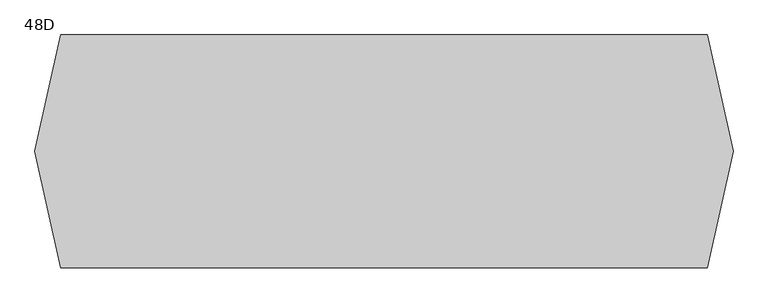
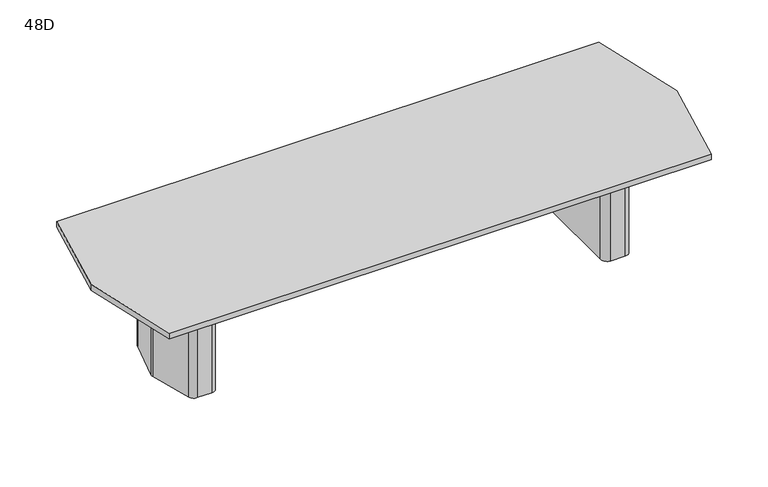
"""IFC4 building model written with IfcOpenShell, lengths in millimetres: furniture geometry, Coalesse_AM_Table_Conference_ETable2_Faceted_12ft_TwoBase : 48D."""

from ifc_helpers import new_model, si_unit, frame, origin, place, context, project, spatial, polyline, circle_curve, outline, extrude, source, transform, mapped, element, save
from ifc_brep_helpers import plane_surface, cylinder_surface, revolved_surface, advanced_brep


def furniture_48d_4c6bb4a2(model_context):
    return source(origin(), model_context, "Body", "SolidModel", [
        advanced_brep(
        [(1370.224548, 274.2093613, 698.5), (1330.3579246, 304.8, 698.5), (1241.425, 304.8, 698.5), (1200.15, 263.525, 698.5), (1200.15, -263.525, 698.5), (1241.425, -304.8, 698.5), (1330.3579246, -304.8, 698.5), (1370.224548, -274.2093613, 698.5), (1440.8503901, -10.6333708, 698.5), (1440.8503901, 10.6333708, 698.5), (1238.25, -206.375, 698.5), (1238.25, 206.375, 698.5), (1263.65, 231.775, 698.5), (1322.6608422, 231.775, 698.5), (1347.195338, 212.9490792, 698.5), (1385.8875, 68.54974, 698.5), (1385.8875, -68.54974, 698.5), (1347.195338, -212.9490792, 698.5), (1322.6608422, -231.775, 698.5), (1263.65, -231.775, 698.5), (1370.224548, 274.2093613, 3.175), (1440.8503901, 10.6333708, 3.175), (1440.8503901, -10.6333708, 3.175), (1370.224548, -274.2093613, 3.175), (1330.3579246, -304.8, 3.175), (1241.425, -304.8, 3.175), (1200.15, -263.525, 3.175), (1200.15, 263.525, 3.175), (1241.425, 304.8, 3.175), (1330.3579246, 304.8, 3.175), (1359.4625859, 216.2361187, 3.175), (1322.6608422, 244.475, 3.175), (1263.65, 244.475, 3.175), (1225.55, 206.375, 3.175), (1225.55, -206.375, 3.175), (1263.65, -244.475, 3.175), (1322.6608422, -244.475, 3.175), (1359.4625859, -216.2361187, 3.175), (1398.5875, -70.2217466, 3.175), (1398.5875, 70.2217466, 3.175), (1263.65, -231.775, 3.175), (1238.25, -206.375, 3.175), (1322.6608422, -231.775, 3.175), (1347.195338, -212.9490792, 3.175), (1385.8875, -68.54974, 3.175), (1385.8875, 68.54974, 3.175), (1347.195338, 212.9490792, 3.175), (1322.6608422, 231.775, 3.175), (1263.65, 231.775, 3.175), (1238.25, 206.375, 3.175), (1359.4625859, 216.2361187, 0.0), (1398.5875, 70.2217466, 0.0), (1398.5875, -70.2217466, 0.0), (1359.4625859, -216.2361187, 0.0), (1322.6608422, -244.475, 0.0), (1263.65, -244.475, 0.0), (1225.55, -206.375, 0.0), (1225.55, 206.375, 0.0), (1263.65, 244.475, 0.0), (1322.6608422, 244.475, 0.0)],
        [
            (0, 1, circle_curve(frame((1330.3579246, 263.5270004, 698.5), z_axis=(0.0, 0.0, 1.0), x_axis=(-1.0, 0.0, 0.0)), 41.2729996)),
            (1, 2),
            (2, 3, circle_curve(frame((1241.425, 263.525, 698.5), z_axis=(0.0, 0.0, 1.0), x_axis=(-1.0, 0.0, 0.0)), 41.275)),
            (3, 4),
            (4, 5, circle_curve(frame((1241.425, -263.525, 698.5), z_axis=(0.0, 0.0, 1.0), x_axis=(-1.0, 0.0, 0.0)), 41.275)),
            (5, 6),
            (6, 7, circle_curve(frame((1330.3579246, -263.5270004, 698.5), z_axis=(0.0, 0.0, 1.0), x_axis=(-1.0, 0.0, 0.0)), 41.2729996)),
            (7, 8),
            (8, 9, circle_curve(frame((1401.1665979, 0.0, 698.5), z_axis=(0.0, 0.0, 1.0), x_axis=(-1.0, 0.0, 0.0)), 41.0837187)),
            (9, 0),
            (10, 11),
            (11, 12, circle_curve(frame((1263.65, 206.375, 698.5), z_axis=(0.0, 0.0, -1.0), x_axis=(-1.0, 0.0, 0.0)), 25.4)),
            (12, 13),
            (13, 14, circle_curve(frame((1322.6608422, 206.375, 698.5), z_axis=(0.0, 0.0, -1.0), x_axis=(-1.0, 0.0, 0.0)), 25.4)),
            (14, 15),
            (15, 16),
            (16, 17),
            (17, 18, circle_curve(frame((1322.6608422, -206.375, 698.5), z_axis=(0.0, 0.0, -1.0), x_axis=(-1.0, 0.0, 0.0)), 25.4)),
            (18, 19),
            (19, 10, circle_curve(frame((1263.65, -206.375, 698.5), z_axis=(0.0, 0.0, -1.0), x_axis=(-1.0, 0.0, 0.0)), 25.4)),
            (20, 21),
            (21, 22, circle_curve(frame((1401.1665979, 0.0, 3.175), z_axis=(0.0, 0.0, -1.0), x_axis=(-1.0, 0.0, 0.0)), 41.0837187)),
            (22, 23),
            (23, 24, circle_curve(frame((1330.3579246, -263.5270004, 3.175), z_axis=(0.0, 0.0, -1.0), x_axis=(-1.0, 0.0, 0.0)), 41.2729996)),
            (24, 25),
            (25, 26, circle_curve(frame((1241.425, -263.525, 3.175), z_axis=(0.0, 0.0, -1.0), x_axis=(-1.0, 0.0, 0.0)), 41.275)),
            (26, 27),
            (27, 28, circle_curve(frame((1241.425, 263.525, 3.175), z_axis=(0.0, 0.0, -1.0), x_axis=(-1.0, 0.0, 0.0)), 41.275)),
            (28, 29),
            (29, 20, circle_curve(frame((1330.3579246, 263.5270004, 3.175), z_axis=(0.0, 0.0, -1.0), x_axis=(-1.0, 0.0, 0.0)), 41.2729996)),
            (30, 31, circle_curve(frame((1322.6608422, 206.375, 3.175), z_axis=(0.0, 0.0, 1.0), x_axis=(-1.0, 0.0, 0.0)), 38.1)),
            (31, 32),
            (32, 33, circle_curve(frame((1263.65, 206.375, 3.175), z_axis=(0.0, 0.0, 1.0), x_axis=(-1.0, 0.0, 0.0)), 38.1)),
            (33, 34),
            (34, 35, circle_curve(frame((1263.65, -206.375, 3.175), z_axis=(0.0, 0.0, 1.0), x_axis=(-1.0, 0.0, 0.0)), 38.1)),
            (35, 36),
            (36, 37, circle_curve(frame((1322.6608422, -206.375, 3.175), z_axis=(0.0, 0.0, 1.0), x_axis=(-1.0, 0.0, 0.0)), 38.1)),
            (37, 38),
            (38, 39),
            (39, 30),
            (9, 21),
            (20, 0),
            (8, 22),
            (7, 23),
            (6, 24),
            (5, 25),
            (4, 26),
            (3, 27),
            (2, 28),
            (1, 29),
            (19, 40),
            (40, 41, circle_curve(frame((1263.65, -206.375, 3.175), z_axis=(0.0, 0.0, -1.0), x_axis=(-1.0, 0.0, 0.0)), 25.4)),
            (41, 10),
            (18, 42),
            (42, 40),
            (17, 43),
            (43, 42, circle_curve(frame((1322.6608422, -206.375, 3.175), z_axis=(0.0, 0.0, -1.0), x_axis=(-1.0, 0.0, 0.0)), 25.4)),
            (16, 44),
            (44, 43),
            (15, 45),
            (45, 44),
            (14, 46),
            (46, 45),
            (13, 47),
            (47, 46, circle_curve(frame((1322.6608422, 206.375, 3.175), z_axis=(0.0, 0.0, -1.0), x_axis=(-1.0, 0.0, 0.0)), 25.4)),
            (12, 48),
            (48, 47),
            (11, 49),
            (49, 48, circle_curve(frame((1263.65, 206.375, 3.175), z_axis=(0.0, 0.0, -1.0), x_axis=(-1.0, 0.0, 0.0)), 25.4)),
            (41, 49),
            (50, 51),
            (51, 52),
            (52, 53),
            (53, 54, circle_curve(frame((1322.6608422, -206.375, 0.0), z_axis=(0.0, 0.0, -1.0), x_axis=(-1.0, 0.0, 0.0)), 38.1)),
            (54, 55),
            (55, 56, circle_curve(frame((1263.65, -206.375, 0.0), z_axis=(0.0, 0.0, -1.0), x_axis=(-1.0, 0.0, 0.0)), 38.1)),
            (56, 57),
            (57, 58, circle_curve(frame((1263.65, 206.375, 0.0), z_axis=(0.0, 0.0, -1.0), x_axis=(-1.0, 0.0, 0.0)), 38.1)),
            (58, 59),
            (59, 50, circle_curve(frame((1322.6608422, 206.375, 0.0), z_axis=(0.0, 0.0, -1.0), x_axis=(-1.0, 0.0, 0.0)), 38.1)),
            (50, 30),
            (39, 51),
            (38, 52),
            (37, 53),
            (36, 54),
            (35, 55),
            (34, 56),
            (33, 57),
            (32, 58),
            (31, 59),
        ],
        [
            plane_surface(frame((1440.8374275, 10.6817473, 698.5), z_axis=(0.0, 0.0, 1.0000000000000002), x_axis=(0.25882201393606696, -0.9659250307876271, 0.0))),
            plane_surface(frame((1440.8374275, 10.6817473, 3.175), z_axis=(0.0, 0.0, -1.0000000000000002), x_axis=(-0.25882201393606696, 0.9659250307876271, 0.0))),
            plane_surface(frame((1370.224548, 274.2093613, 698.5), z_axis=(0.9659250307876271, 0.25882201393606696, 0.0), x_axis=(0.0, 0.0, -1.0))),
            cylinder_surface(frame((1401.1665979, 0.0, 3.175), z_axis=(0.0, 0.0, 1.0), x_axis=(-1.0, 0.0, 0.0)), 41.0837187),
            plane_surface(frame((1440.8503901, -10.6333708, 698.5), z_axis=(0.9659250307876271, -0.2588220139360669, 0.0), x_axis=(0.0, 0.0, -1.0))),
            cylinder_surface(frame((1330.3579246, -263.5270004, 3.175), z_axis=(0.0, 0.0, 1.0), x_axis=(-1.0, 0.0, 0.0)), 41.2729996),
            plane_surface(frame((1330.3579246, -304.8, 698.5), z_axis=(0.0, -1.0, 0.0), x_axis=(0.0, 0.0, -1.0))),
            cylinder_surface(frame((1241.425, -263.525, 3.175), z_axis=(0.0, 0.0, 1.0), x_axis=(-1.0, 0.0, 0.0)), 41.275),
            plane_surface(frame((1200.15, -263.525, 698.5), z_axis=(-1.0, 0.0, 0.0), x_axis=(0.0, 0.0, -1.0))),
            cylinder_surface(frame((1241.425, 263.525, 3.175), z_axis=(0.0, 0.0, 1.0), x_axis=(-1.0, 0.0, 0.0)), 41.275),
            plane_surface(frame((1241.425, 304.8, 698.5), z_axis=(0.0, 1.0, 0.0), x_axis=(0.0, 0.0, -1.0))),
            cylinder_surface(frame((1330.3579246, 263.5270004, 3.175), z_axis=(0.0, 0.0, 1.0), x_axis=(-1.0, 0.0, 0.0)), 41.2729996),
            revolved_surface(polyline([(1238.25, -206.375, 3.175), (1238.25, -206.375, 698.5)]), (1263.65, -206.375, 0.0), (0.0, 0.0, -1.0)),
            plane_surface(frame((1263.65, -231.775, 698.5), z_axis=(0.0, 1.0, 0.0), x_axis=(0.0, 0.0, -1.0))),
            revolved_surface(polyline([(1297.2608421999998, -206.375, 3.175), (1297.2608421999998, -206.375, 698.5)]), (1322.6608422, -206.375, 0.0), (0.0, 0.0, -1.0)),
            plane_surface(frame((1347.195338, -212.9490792, 698.5), z_axis=(-0.9659250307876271, 0.2588220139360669, 0.0), x_axis=(0.0, 0.0, -1.0))),
            plane_surface(frame((1385.8875, -68.54974, 698.5), z_axis=(-1.0, 0.0, 0.0), x_axis=(0.0, 0.0, -1.0))),
            plane_surface(frame((1385.8875, 68.54974, 698.5), z_axis=(-0.9659250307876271, -0.25882201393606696, 0.0), x_axis=(0.0, 0.0, -1.0))),
            revolved_surface(polyline([(1297.2608421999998, 206.375, 3.175), (1297.2608421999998, 206.375, 698.5)]), (1322.6608422, 206.375, 0.0), (0.0, 0.0, -1.0)),
            plane_surface(frame((1322.6608422, 231.775, 698.5), z_axis=(0.0, -1.0, 0.0), x_axis=(0.0, 0.0, -1.0))),
            revolved_surface(polyline([(1238.25, 206.375, 3.175), (1238.25, 206.375, 698.5)]), (1263.65, 206.375, 0.0), (0.0, 0.0, -1.0)),
            plane_surface(frame((1238.25, 206.375, 698.5), z_axis=(1.0, 0.0, 0.0), x_axis=(0.0, 0.0, -1.0))),
            plane_surface(frame((1398.1547479, 71.8367796, 3.175), z_axis=(0.0, 0.0, 1.0), x_axis=(0.25882201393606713, -0.965925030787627, 0.0))),
            plane_surface(frame((1398.1547479, 71.8367796, 0.0), z_axis=(0.0, 0.0, -1.0), x_axis=(-0.25882201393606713, 0.965925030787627, 0.0))),
            plane_surface(frame((1359.4625859, 216.2361187, 3.175), z_axis=(0.965925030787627, 0.25882201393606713, 0.0), x_axis=(0.0, 0.0, -1.0))),
            plane_surface(frame((1398.5875, 70.2217466, 3.175), z_axis=(1.0, 0.0, 0.0), x_axis=(0.0, 0.0, -1.0))),
            plane_surface(frame((1398.5875, -70.2217466, 3.175), z_axis=(0.9659250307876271, -0.2588220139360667, 0.0), x_axis=(0.0, 0.0, -1.0))),
            cylinder_surface(frame((1322.6608422, -206.375, 0.0), z_axis=(0.0, 0.0, 1.0), x_axis=(-1.0, 0.0, 0.0)), 38.1),
            plane_surface(frame((1322.6608422, -244.475, 3.175), z_axis=(0.0, -1.0, 0.0), x_axis=(0.0, 0.0, -1.0))),
            cylinder_surface(frame((1263.65, -206.375, 0.0), z_axis=(0.0, 0.0, 1.0), x_axis=(-1.0, 0.0, 0.0)), 38.1),
            plane_surface(frame((1225.55, -206.375, 3.175), z_axis=(-1.0, 0.0, 0.0), x_axis=(0.0, 0.0, -1.0))),
            cylinder_surface(frame((1263.65, 206.375, 0.0), z_axis=(0.0, 0.0, 1.0), x_axis=(-1.0, 0.0, 0.0)), 38.1),
            plane_surface(frame((1263.65, 244.475, 3.175), z_axis=(0.0, 1.0, 0.0), x_axis=(0.0, 0.0, -1.0))),
            cylinder_surface(frame((1322.6608422, 206.375, 0.0), z_axis=(0.0, 0.0, 1.0), x_axis=(-1.0, 0.0, 0.0)), 38.1),
        ],
        [
            (0, [[1, 2, 3, 4, 5, 6, 7, 8, 9, 10], [11, 12, 13, 14, 15, 16, 17, 18, 19, 20]]),
            (1, [[21, 22, 23, 24, 25, 26, 27, 28, 29, 30], [31, 32, 33, 34, 35, 36, 37, 38, 39, 40]]),
            (2, [[41, -21, 42, -10]]),
            (3, [[43, -22, -41, -9]]),
            (4, [[44, -23, -43, -8]]),
            (5, [[45, -24, -44, -7]]),
            (6, [[46, -25, -45, -6]]),
            (7, [[47, -26, -46, -5]]),
            (8, [[48, -27, -47, -4]]),
            (9, [[49, -28, -48, -3]]),
            (10, [[50, -29, -49, -2]]),
            (11, [[-42, -30, -50, -1]]),
            (12, [[51, 52, 53, -20]]),
            (13, [[54, 55, -51, -19]]),
            (14, [[56, 57, -54, -18]]),
            (15, [[58, 59, -56, -17]]),
            (16, [[60, 61, -58, -16]]),
            (17, [[62, 63, -60, -15]]),
            (18, [[64, 65, -62, -14]]),
            (19, [[66, 67, -64, -13]]),
            (20, [[68, 69, -66, -12]]),
            (21, [[-53, 70, -68, -11]]),
            (22, [[-55, -57, -59, -61, -63, -65, -67, -69, -70, -52]]),
            (23, [[71, 72, 73, 74, 75, 76, 77, 78, 79, 80]]),
            (24, [[81, -40, 82, -71]]),
            (25, [[-82, -39, 83, -72]]),
            (26, [[-83, -38, 84, -73]]),
            (27, [[-84, -37, 85, -74]]),
            (28, [[-85, -36, 86, -75]]),
            (29, [[-86, -35, 87, -76]]),
            (30, [[-87, -34, 88, -77]]),
            (31, [[-88, -33, 89, -78]]),
            (32, [[-89, -32, 90, -79]]),
            (33, [[-90, -31, -81, -80]]),
        ],
    ),
        advanced_brep(
        [(-1381.337048, 274.2093613, 698.5), (-1451.9628901, 10.6333708, 698.5), (-1451.9628901, -10.6333708, 698.5), (-1381.337048, -274.2093613, 698.5), (-1341.4704246, -304.8, 698.5), (-1252.5375, -304.8, 698.5), (-1211.2625, -263.525, 698.5), (-1211.2625, 263.525, 698.5), (-1252.5375, 304.8, 698.5), (-1341.4704246, 304.8, 698.5), (-1249.3625, -206.375, 698.5), (-1274.7625, -231.775, 698.5), (-1333.7733422, -231.775, 698.5), (-1358.307838, -212.9490792, 698.5), (-1397.0, -68.54974, 698.5), (-1397.0, 68.54974, 698.5), (-1358.307838, 212.9490792, 698.5), (-1333.7733422, 231.775, 698.5), (-1274.7625, 231.775, 698.5), (-1249.3625, 206.375, 698.5), (-1381.337048, 274.2093613, 3.175), (-1341.4704246, 304.8, 3.175), (-1252.5375, 304.8, 3.175), (-1211.2625, 263.525, 3.175), (-1211.2625, -263.525, 3.175), (-1252.5375, -304.8, 3.175), (-1341.4704246, -304.8, 3.175), (-1381.337048, -274.2093613, 3.175), (-1451.9628901, -10.6333708, 3.175), (-1451.9628901, 10.6333708, 3.175), (-1370.5750859, 216.2361187, 3.175), (-1409.7, 70.2217466, 3.175), (-1409.7, -70.2217466, 3.175), (-1370.5750859, -216.2361187, 3.175), (-1333.7733422, -244.475, 3.175), (-1274.7625, -244.475, 3.175), (-1236.6625, -206.375, 3.175), (-1236.6625, 206.375, 3.175), (-1274.7625, 244.475, 3.175), (-1333.7733422, 244.475, 3.175), (-1249.3625, -206.375, 3.175), (-1274.7625, -231.775, 3.175), (-1333.7733422, -231.775, 3.175), (-1358.307838, -212.9490792, 3.175), (-1397.0, -68.54974, 3.175), (-1397.0, 68.54974, 3.175), (-1358.307838, 212.9490792, 3.175), (-1333.7733422, 231.775, 3.175), (-1274.7625, 231.775, 3.175), (-1249.3625, 206.375, 3.175), (-1370.5750859, 216.2361187, 0.0), (-1333.7733422, 244.475, 0.0), (-1274.7625, 244.475, 0.0), (-1236.6625, 206.375, 0.0), (-1236.6625, -206.375, 0.0), (-1274.7625, -244.475, 0.0), (-1333.7733422, -244.475, 0.0), (-1370.5750859, -216.2361187, 0.0), (-1409.7, -70.2217466, 0.0), (-1409.7, 70.2217466, 0.0)],
        [
            (0, 1),
            (1, 2, circle_curve(frame((-1412.2790979, 0.0, 698.5), z_axis=(0.0, 0.0, 1.0), x_axis=(1.0, 0.0, 0.0)), 41.0837187)),
            (2, 3),
            (3, 4, circle_curve(frame((-1341.4704246, -263.5270004, 698.5), z_axis=(0.0, 0.0, 1.0), x_axis=(1.0, 0.0, 0.0)), 41.2729996)),
            (4, 5),
            (5, 6, circle_curve(frame((-1252.5375, -263.525, 698.5), z_axis=(0.0, 0.0, 1.0), x_axis=(1.0, 0.0, 0.0)), 41.275)),
            (6, 7),
            (7, 8, circle_curve(frame((-1252.5375, 263.525, 698.5), z_axis=(0.0, 0.0, 1.0), x_axis=(1.0, 0.0, 0.0)), 41.275)),
            (8, 9),
            (9, 0, circle_curve(frame((-1341.4704246, 263.5270004, 698.5), z_axis=(0.0, 0.0, 1.0), x_axis=(1.0, 0.0, 0.0)), 41.2729996)),
            (10, 11, circle_curve(frame((-1274.7625, -206.375, 698.5), z_axis=(0.0, 0.0, -1.0), x_axis=(1.0, 0.0, 0.0)), 25.4)),
            (11, 12),
            (12, 13, circle_curve(frame((-1333.7733422, -206.375, 698.5), z_axis=(0.0, 0.0, -1.0), x_axis=(1.0, 0.0, 0.0)), 25.4)),
            (13, 14),
            (14, 15),
            (15, 16),
            (16, 17, circle_curve(frame((-1333.7733422, 206.375, 698.5), z_axis=(0.0, 0.0, -1.0), x_axis=(1.0, 0.0, 0.0)), 25.4)),
            (17, 18),
            (18, 19, circle_curve(frame((-1274.7625, 206.375, 698.5), z_axis=(0.0, 0.0, -1.0), x_axis=(1.0, 0.0, 0.0)), 25.4)),
            (19, 10),
            (20, 21, circle_curve(frame((-1341.4704246, 263.5270004, 3.175), z_axis=(0.0, 0.0, -1.0), x_axis=(1.0, 0.0, 0.0)), 41.2729996)),
            (21, 22),
            (22, 23, circle_curve(frame((-1252.5375, 263.525, 3.175), z_axis=(0.0, 0.0, -1.0), x_axis=(1.0, 0.0, 0.0)), 41.275)),
            (23, 24),
            (24, 25, circle_curve(frame((-1252.5375, -263.525, 3.175), z_axis=(0.0, 0.0, -1.0), x_axis=(1.0, 0.0, 0.0)), 41.275)),
            (25, 26),
            (26, 27, circle_curve(frame((-1341.4704246, -263.5270004, 3.175), z_axis=(0.0, 0.0, -1.0), x_axis=(1.0, 0.0, 0.0)), 41.2729996)),
            (27, 28),
            (28, 29, circle_curve(frame((-1412.2790979, 0.0, 3.175), z_axis=(0.0, 0.0, -1.0), x_axis=(1.0, 0.0, 0.0)), 41.0837187)),
            (29, 20),
            (30, 31),
            (31, 32),
            (32, 33),
            (33, 34, circle_curve(frame((-1333.7733422, -206.375, 3.175), z_axis=(0.0, 0.0, 1.0), x_axis=(1.0, 0.0, 0.0)), 38.1)),
            (34, 35),
            (35, 36, circle_curve(frame((-1274.7625, -206.375, 3.175), z_axis=(0.0, 0.0, 1.0), x_axis=(1.0, 0.0, 0.0)), 38.1)),
            (36, 37),
            (37, 38, circle_curve(frame((-1274.7625, 206.375, 3.175), z_axis=(0.0, 0.0, 1.0), x_axis=(1.0, 0.0, 0.0)), 38.1)),
            (38, 39),
            (39, 30, circle_curve(frame((-1333.7733422, 206.375, 3.175), z_axis=(0.0, 0.0, 1.0), x_axis=(1.0, 0.0, 0.0)), 38.1)),
            (0, 20),
            (29, 1),
            (28, 2),
            (27, 3),
            (26, 4),
            (25, 5),
            (24, 6),
            (23, 7),
            (22, 8),
            (21, 9),
            (10, 40),
            (40, 41, circle_curve(frame((-1274.7625, -206.375, 3.175), z_axis=(0.0, 0.0, -1.0), x_axis=(1.0, 0.0, 0.0)), 25.4)),
            (41, 11),
            (41, 42),
            (42, 12),
            (42, 43, circle_curve(frame((-1333.7733422, -206.375, 3.175), z_axis=(0.0, 0.0, -1.0), x_axis=(1.0, 0.0, 0.0)), 25.4)),
            (43, 13),
            (43, 44),
            (44, 14),
            (44, 45),
            (45, 15),
            (45, 46),
            (46, 16),
            (46, 47, circle_curve(frame((-1333.7733422, 206.375, 3.175), z_axis=(0.0, 0.0, -1.0), x_axis=(1.0, 0.0, 0.0)), 25.4)),
            (47, 17),
            (47, 48),
            (48, 18),
            (48, 49, circle_curve(frame((-1274.7625, 206.375, 3.175), z_axis=(0.0, 0.0, -1.0), x_axis=(1.0, 0.0, 0.0)), 25.4)),
            (49, 19),
            (49, 40),
            (50, 51, circle_curve(frame((-1333.7733422, 206.375, 0.0), z_axis=(0.0, 0.0, -1.0), x_axis=(1.0, 0.0, 0.0)), 38.1)),
            (51, 52),
            (52, 53, circle_curve(frame((-1274.7625, 206.375, 0.0), z_axis=(0.0, 0.0, -1.0), x_axis=(1.0, 0.0, 0.0)), 38.1)),
            (53, 54),
            (54, 55, circle_curve(frame((-1274.7625, -206.375, 0.0), z_axis=(0.0, 0.0, -1.0), x_axis=(1.0, 0.0, 0.0)), 38.1)),
            (55, 56),
            (56, 57, circle_curve(frame((-1333.7733422, -206.375, 0.0), z_axis=(0.0, 0.0, -1.0), x_axis=(1.0, 0.0, 0.0)), 38.1)),
            (57, 58),
            (58, 59),
            (59, 50),
            (59, 31),
            (30, 50),
            (58, 32),
            (57, 33),
            (56, 34),
            (55, 35),
            (54, 36),
            (53, 37),
            (52, 38),
            (51, 39),
        ],
        [
            plane_surface(frame((-1451.9499275, 10.6817473, 698.5), z_axis=(0.0, 0.0, 1.0000000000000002), x_axis=(-0.25882201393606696, -0.9659250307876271, 0.0))),
            plane_surface(frame((-1451.9499275, 10.6817473, 3.175), z_axis=(0.0, 0.0, -1.0000000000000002), x_axis=(0.25882201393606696, 0.9659250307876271, 0.0))),
            plane_surface(frame((-1381.337048, 274.2093613, 698.5), z_axis=(-0.9659250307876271, 0.25882201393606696, 0.0), x_axis=(0.0, 0.0, -1.0))),
            cylinder_surface(frame((-1412.2790979, 0.0, 3.175), z_axis=(0.0, 0.0, 1.0), x_axis=(1.0, 0.0, 0.0)), 41.0837187),
            plane_surface(frame((-1451.9628901, -10.6333708, 698.5), z_axis=(-0.9659250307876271, -0.2588220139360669, 0.0), x_axis=(0.0, 0.0, -1.0))),
            cylinder_surface(frame((-1341.4704246, -263.5270004, 3.175), z_axis=(0.0, 0.0, 1.0), x_axis=(1.0, 0.0, 0.0)), 41.2729996),
            plane_surface(frame((-1341.4704246, -304.8, 698.5), z_axis=(0.0, -1.0, 0.0), x_axis=(0.0, 0.0, -1.0))),
            cylinder_surface(frame((-1252.5375, -263.525, 3.175), z_axis=(0.0, 0.0, 1.0), x_axis=(1.0, 0.0, 0.0)), 41.275),
            plane_surface(frame((-1211.2625, -263.525, 698.5), z_axis=(1.0, 0.0, 0.0), x_axis=(0.0, 0.0, -1.0))),
            cylinder_surface(frame((-1252.5375, 263.525, 3.175), z_axis=(0.0, 0.0, 1.0), x_axis=(1.0, 0.0, 0.0)), 41.275),
            plane_surface(frame((-1252.5375, 304.8, 698.5), z_axis=(0.0, 1.0, 0.0), x_axis=(0.0, 0.0, -1.0))),
            cylinder_surface(frame((-1341.4704246, 263.5270004, 3.175), z_axis=(0.0, 0.0, 1.0), x_axis=(1.0, 0.0, 0.0)), 41.2729996),
            revolved_surface(polyline([(-1249.3625, -206.375, 3.175), (-1249.3625, -206.375, 698.5)]), (-1274.7625, -206.375, 0.0), (0.0, 0.0, -1.0)),
            plane_surface(frame((-1274.7625, -231.775, 698.5), z_axis=(0.0, 1.0, 0.0), x_axis=(0.0, 0.0, -1.0))),
            revolved_surface(polyline([(-1308.3733421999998, -206.375, 3.175), (-1308.3733421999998, -206.375, 698.5)]), (-1333.7733422, -206.375, 0.0), (0.0, 0.0, -1.0)),
            plane_surface(frame((-1358.307838, -212.9490792, 698.5), z_axis=(0.9659250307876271, 0.2588220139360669, 0.0), x_axis=(0.0, 0.0, -1.0))),
            plane_surface(frame((-1397.0, -68.54974, 698.5), z_axis=(1.0, 0.0, 0.0), x_axis=(0.0, 0.0, -1.0))),
            plane_surface(frame((-1397.0, 68.54974, 698.5), z_axis=(0.9659250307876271, -0.25882201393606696, 0.0), x_axis=(0.0, 0.0, -1.0))),
            revolved_surface(polyline([(-1308.3733421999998, 206.375, 3.175), (-1308.3733421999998, 206.375, 698.5)]), (-1333.7733422, 206.375, 0.0), (0.0, 0.0, -1.0)),
            plane_surface(frame((-1333.7733422, 231.775, 698.5), z_axis=(0.0, -1.0, 0.0), x_axis=(0.0, 0.0, -1.0))),
            revolved_surface(polyline([(-1249.3625, 206.375, 3.175), (-1249.3625, 206.375, 698.5)]), (-1274.7625, 206.375, 0.0), (0.0, 0.0, -1.0)),
            plane_surface(frame((-1249.3625, 206.375, 698.5), z_axis=(-1.0, 0.0, 0.0), x_axis=(0.0, 0.0, -1.0))),
            plane_surface(frame((-1409.2672479, 71.8367796, 3.175), z_axis=(0.0, 0.0, 1.0), x_axis=(-0.25882201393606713, -0.965925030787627, 0.0))),
            plane_surface(frame((-1409.2672479, 71.8367796, 0.0), z_axis=(0.0, 0.0, -1.0), x_axis=(0.25882201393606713, 0.965925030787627, 0.0))),
            plane_surface(frame((-1370.5750859, 216.2361187, 3.175), z_axis=(-0.965925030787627, 0.25882201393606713, 0.0), x_axis=(0.0, 0.0, -1.0))),
            plane_surface(frame((-1409.7, 70.2217466, 3.175), z_axis=(-1.0, 0.0, 0.0), x_axis=(0.0, 0.0, -1.0))),
            plane_surface(frame((-1409.7, -70.2217466, 3.175), z_axis=(-0.9659250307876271, -0.2588220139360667, 0.0), x_axis=(0.0, 0.0, -1.0))),
            cylinder_surface(frame((-1333.7733422, -206.375, 0.0), z_axis=(0.0, 0.0, 1.0), x_axis=(1.0, 0.0, 0.0)), 38.1),
            plane_surface(frame((-1333.7733422, -244.475, 3.175), z_axis=(0.0, -1.0, 0.0), x_axis=(0.0, 0.0, -1.0))),
            cylinder_surface(frame((-1274.7625, -206.375, 0.0), z_axis=(0.0, 0.0, 1.0), x_axis=(1.0, 0.0, 0.0)), 38.1),
            plane_surface(frame((-1236.6625, -206.375, 3.175), z_axis=(1.0, 0.0, 0.0), x_axis=(0.0, 0.0, -1.0))),
            cylinder_surface(frame((-1274.7625, 206.375, 0.0), z_axis=(0.0, 0.0, 1.0), x_axis=(1.0, 0.0, 0.0)), 38.1),
            plane_surface(frame((-1274.7625, 244.475, 3.175), z_axis=(0.0, 1.0, 0.0), x_axis=(0.0, 0.0, -1.0))),
            cylinder_surface(frame((-1333.7733422, 206.375, 0.0), z_axis=(0.0, 0.0, 1.0), x_axis=(1.0, 0.0, 0.0)), 38.1),
        ],
        [
            (0, [[1, 2, 3, 4, 5, 6, 7, 8, 9, 10], [11, 12, 13, 14, 15, 16, 17, 18, 19, 20]]),
            (1, [[21, 22, 23, 24, 25, 26, 27, 28, 29, 30], [31, 32, 33, 34, 35, 36, 37, 38, 39, 40]]),
            (2, [[-1, 41, -30, 42]]),
            (3, [[-2, -42, -29, 43]]),
            (4, [[-3, -43, -28, 44]]),
            (5, [[-4, -44, -27, 45]]),
            (6, [[-5, -45, -26, 46]]),
            (7, [[-6, -46, -25, 47]]),
            (8, [[-7, -47, -24, 48]]),
            (9, [[-8, -48, -23, 49]]),
            (10, [[-9, -49, -22, 50]]),
            (11, [[-10, -50, -21, -41]]),
            (12, [[-11, 51, 52, 53]]),
            (13, [[-12, -53, 54, 55]]),
            (14, [[-13, -55, 56, 57]]),
            (15, [[-14, -57, 58, 59]]),
            (16, [[-15, -59, 60, 61]]),
            (17, [[-16, -61, 62, 63]]),
            (18, [[-17, -63, 64, 65]]),
            (19, [[-18, -65, 66, 67]]),
            (20, [[-19, -67, 68, 69]]),
            (21, [[-20, -69, 70, -51]]),
            (22, [[-52, -70, -68, -66, -64, -62, -60, -58, -56, -54]]),
            (23, [[71, 72, 73, 74, 75, 76, 77, 78, 79, 80]]),
            (24, [[-80, 81, -31, 82]]),
            (25, [[-79, 83, -32, -81]]),
            (26, [[-78, 84, -33, -83]]),
            (27, [[-77, 85, -34, -84]]),
            (28, [[-76, 86, -35, -85]]),
            (29, [[-75, 87, -36, -86]]),
            (30, [[-74, 88, -37, -87]]),
            (31, [[-73, 89, -38, -88]]),
            (32, [[-72, 90, -39, -89]]),
            (33, [[-71, -82, -40, -90]]),
        ],
    ),
        extrude(outline(polyline([(-1828.8, 0.0), (-1693.6541794, 609.6), (1693.6541794, 609.6), (1828.8, 0.0), (1693.6541794, -609.6), (-1693.6541794, -609.6), (-1828.8, 0.0)])), frame((0.0, 0.0, 698.5), z_axis=(0.0, 0.0, 1.0), x_axis=(1.0, 0.0, 0.0)), (0.0, 0.0, 1.0), 38.1),
        extrude(outline(polyline([(96.8375, 698.5), (103.1875, 698.5), (103.1875, 476.25), (-103.1875, 476.25), (-103.1875, 698.5), (-96.8375, 698.5), (-96.8375, 482.6), (96.8375, 482.6), (96.8375, 698.5)])), frame((-1211.2625, 0.0, 0.0), z_axis=(1.0, 0.0, 0.0), x_axis=(0.0, 1.0, 0.0)), (0.0, 0.0, 1.0), 2411.4125),
    ])


if __name__ == "__main__":
    model = new_model("IFC4")
    model_context = context("Model", 3, world=origin())
    ifc_project = project(units=[si_unit("LENGTHUNIT", "METRE", prefix="MILLI")], contexts=[model_context])
    site = spatial("IfcSite", under=ifc_project)
    building = spatial("IfcBuilding", under=site)
    placement = place(None, origin())
    furniture_48d_shape = furniture_48d_4c6bb4a2(model_context)
    element("IfcFurniture", 1, ObjectType="Coalesse_AM_Table_Conference_ETable2_Faceted_12ft_TwoBase : 48D", at=placement, inside=building, context=model_context, shape_type="MappedRepresentation", body=[
        mapped(furniture_48d_shape, transform((0.0, 0.0, 0.0), x_axis=(1.0, 0.0, 0.0), y_axis=(0.0, 1.0, 0.0), z_axis=(0.0, 0.0, 1.0))),
    ])
    save(model, "model.ifc")
